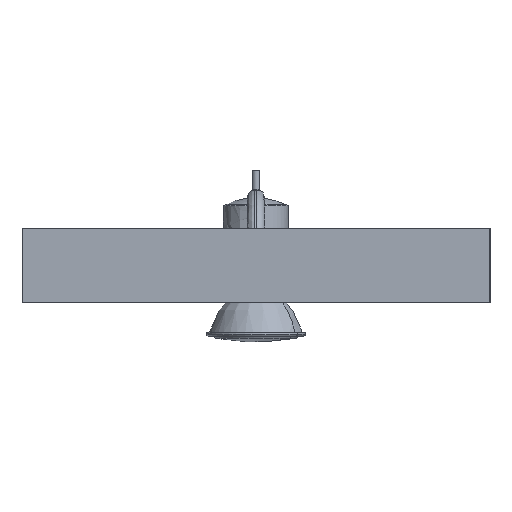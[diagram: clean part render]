
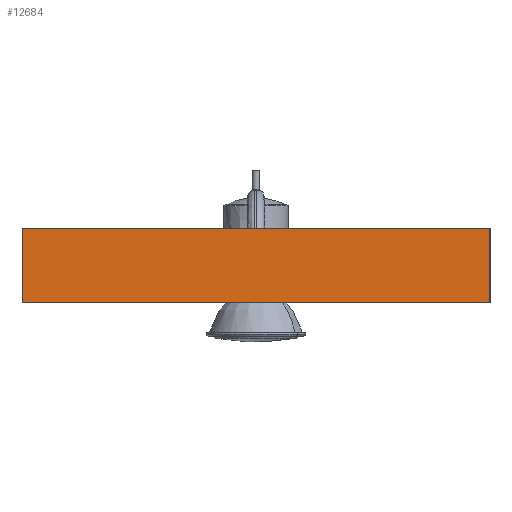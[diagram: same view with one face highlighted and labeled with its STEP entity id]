
A CAD part, front view. The second image highlights one B-rep face of the part: STEP entity #12684.
In plain terms, the highlighted free-form (B-spline) face has degree [1, 1] with [2, 2] control points.
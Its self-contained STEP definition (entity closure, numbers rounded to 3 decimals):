
#12645=CARTESIAN_POINT('',(-120.,0.,19.));
#12646=CARTESIAN_POINT('',(-120.,0.,-19.));
#12647=CARTESIAN_POINT('',(120.,0.,19.));
#12648=CARTESIAN_POINT('',(120.,0.,-19.));
#12649=B_SPLINE_SURFACE_WITH_KNOTS('',1,1,((#12645,#12647),(#12646,#12648)),.UNSPECIFIED.,.F.,.F.,.U.,(2,2),(2,2),(0.0,38.),(0.0,240.),.UNSPECIFIED.);
#12650=CARTESIAN_POINT('',(120.,0.,19.));
#12651=VERTEX_POINT('',#12650);
#12652=CARTESIAN_POINT('',(120.,0.,-19.));
#12653=VERTEX_POINT('',#12652);
#12654=CARTESIAN_POINT('',(120.,0.,19.));
#12655=DIRECTION('',(0.0,0.,-1.0));
#12656=VECTOR('',#12655,38.0);
#12657=LINE('',#12654,#12656);
#12658=EDGE_CURVE('',#12651,#12653,#12657,.T.);
#12659=ORIENTED_EDGE('',*,*,#12658,.F.);
#12660=CARTESIAN_POINT('',(-120.,0.,19.));
#12661=VERTEX_POINT('',#12660);
#12662=CARTESIAN_POINT('',(-120.,0.,19.));
#12663=DIRECTION('',(1.0,0.0,0.0));
#12664=VECTOR('',#12663,240.);
#12665=LINE('',#12662,#12664);
#12666=EDGE_CURVE('',#12661,#12651,#12665,.T.);
#12667=ORIENTED_EDGE('',*,*,#12666,.F.);
#12668=CARTESIAN_POINT('',(-120.,0.,-19.));
#12669=VERTEX_POINT('',#12668);
#12670=CARTESIAN_POINT('',(-120.,0.,-19.));
#12671=DIRECTION('',(0.0,0.,1.0));
#12672=VECTOR('',#12671,38.0);
#12673=LINE('',#12670,#12672);
#12674=EDGE_CURVE('',#12669,#12661,#12673,.T.);
#12675=ORIENTED_EDGE('',*,*,#12674,.F.);
#12676=CARTESIAN_POINT('',(-120.,0.,-19.));
#12677=DIRECTION('',(1.0,0.0,0.0));
#12678=VECTOR('',#12677,240.);
#12679=LINE('',#12676,#12678);
#12680=EDGE_CURVE('',#12669,#12653,#12679,.T.);
#12681=ORIENTED_EDGE('',*,*,#12680,.T.);
#12682=EDGE_LOOP('',(#12659,#12667,#12675,#12681));
#12683=FACE_OUTER_BOUND('',#12682,.T.);
#12684=ADVANCED_FACE('',(#12683),#12649,.T.);
